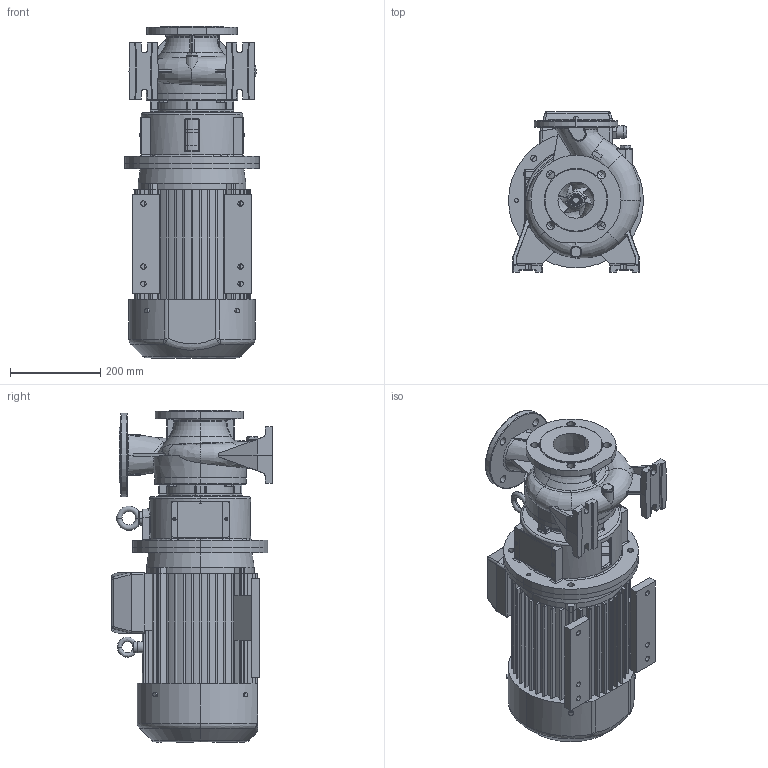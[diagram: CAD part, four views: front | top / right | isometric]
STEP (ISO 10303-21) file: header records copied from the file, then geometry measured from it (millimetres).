
FILE_DESCRIPTION (( 'STEP AP203' ), '1' );
FILE_NAME ('CNG 65-125 2P IE3.STEP', '2017-11-07T15:43:59', ( 'tecnico1' ), ( '' ), 'SwSTEP 2.0', 'SolidWorks 2016', '' );
FILE_SCHEMA (( 'CONFIG_CONTROL_DESIGN' ));
Length unit declared in the file: millimetre
Products named in the file (19): Vite M10x30 TE; O-ring 3.53 x Ø142.50; Ingombri FN24_FN24; Dado M16 autobloccante; CNG 65-125 2P IE3; Flangia serie 65,80-125 (27054 ST)_Lavorato 27054L; Rondella 3-8 pollice; Rondella 17x30x3; Protezione supporti (60020 ST)_Lamina; ING 65-125 2P_A; Vite M4x8 TCCIC; Tappo 3-8 ottone; Corpo pompa 65-125 (16103 ST)_Lavorato; Linguetta 6x6x25; Golfaro M12; Giunto rigido motore MEC132 FN24 (32015 ST); 3SIEL132SA B14; Girante 65-125 A,B - KXL (30103-30047 ST)_Lavorato A 50Hz (30103 L02); Supporto motore flang. MEC132 (80146 ST)_Lavorato
Assembly tree (31 placements, depth 3):
  CNG 65-125 2P IE3
    3SIEL132SA B14
    ING 65-125 2P_A
      Flangia serie 65,80-125 (27054 ST)_Lavorato 27054L
      Supporto motore flang. MEC132 (80146 ST)_Lavorato
      Vite M10x30 TE  x8
      Golfaro M12
      Giunto rigido motore MEC132 FN24 (32015 ST)
      Ingombri FN24_FN24
      Linguetta 6x6x25
      Girante 65-125 A,B - KXL (30103-30047 ST)_Lavorato A 50Hz (30103 L02)
      Rondella 17x30x3
      Dado M16 autobloccante
      O-ring 3.53 x Ø142.50
      Corpo pompa 65-125 (16103 ST)_Lavorato
      Tappo 3-8 ottone  x2
      Rondella 3-8 pollice  x2
      Protezione supporti (60020 ST)_Lamina  x2
      Vite M4x8 TCCIC  x4
Bounding box: 300 x 357 x 737.5 mm (x, y, z)
Volume: 29106586.7 mm3; surface area: 2260147.8 mm2
Topology: 47 solids, 47 shells, 2110 faces, 5396 edges, 3388 vertices
Faces by surface type: cylinder 738, plane 727, cone 234, torus 205, bspline 180, sphere 26
Entity records: 93282 total; most frequent: CARTESIAN_POINT 47225, ORIENTED_EDGE 9252, DIRECTION 9126, EDGE_CURVE 4626, AXIS2_PLACEMENT_3D 3588, VERTEX_POINT 2927, EDGE_LOOP 2031, VECTOR 1950
